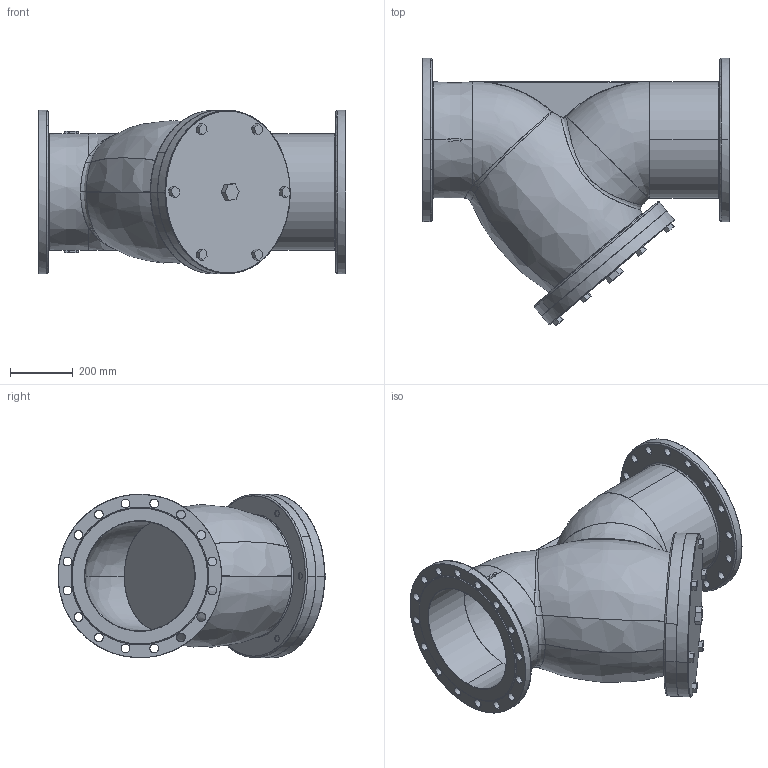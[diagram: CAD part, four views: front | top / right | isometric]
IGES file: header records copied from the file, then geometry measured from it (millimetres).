
Start section: SolidWorks IGES file using analytic representation for surfaces
Global section: file name: C:\Users\Administrator\Desktop\temp\F3240-DN350.IGS; native system: SolidWorks 2015; preprocessor: SolidWorks 2015; author: Administrator; date: 170423.163346; units: millimetre
Bounding box: 980 x 851.8 x 520 mm (x, y, z)
Surface area: 4766017.8 mm2 (no closed solid volume)
Topology: 0 solids, 0 shells, 354 faces, 10270 edges, 10251 vertices
Faces by surface type: bspline 190, revolution 164
